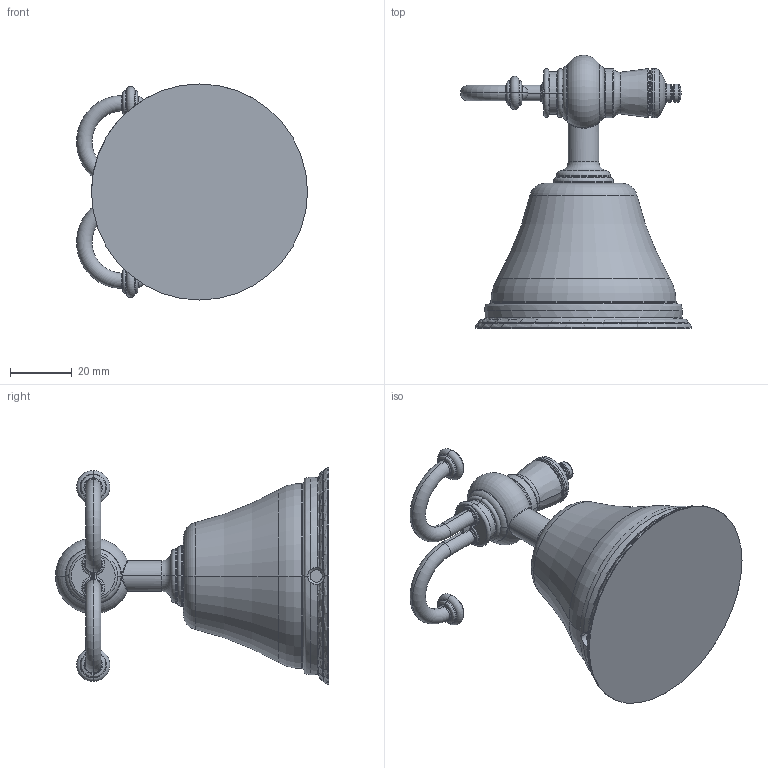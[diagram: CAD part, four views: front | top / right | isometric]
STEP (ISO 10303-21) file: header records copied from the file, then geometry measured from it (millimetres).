
FILE_DESCRIPTION((''),'2;1');
FILE_NAME('37305--00_SUB01_SW0001','2026-09-10T13:44:41',('clra1'),(''),'CREO PARAMETRIC BY PTC INC, 2022244','CREO PARAMETRIC BY PTC INC, 2022244','');
FILE_SCHEMA(('CONFIG_CONTROL_DESIGN'));
Length unit declared in the file: millimetre
Products named in the file (1): 37305--00_SUB01_SW0001
Bounding box: 74.85 x 88.48 x 70 mm (x, y, z)
Surface area: 22323.6 mm2 (no closed solid volume)
Topology: 0 solids, 14 shells, 226 faces, 488 edges, 268 vertices
Faces by surface type: torus 101, cylinder 49, bspline 32, plane 20, sphere 20, cone 4
Entity records: 10021 total; most frequent: CARTESIAN_POINT 5220, DIRECTION 1123, ORIENTED_EDGE 929, AXIS2_PLACEMENT_3D 527, EDGE_CURVE 482, CIRCLE 333, VERTEX_POINT 268, EDGE_LOOP 226
